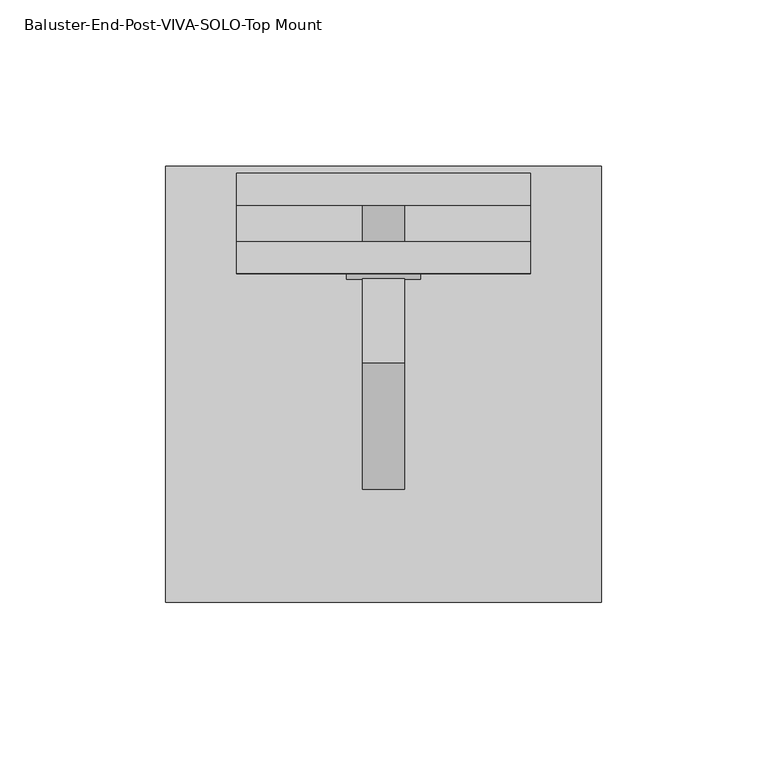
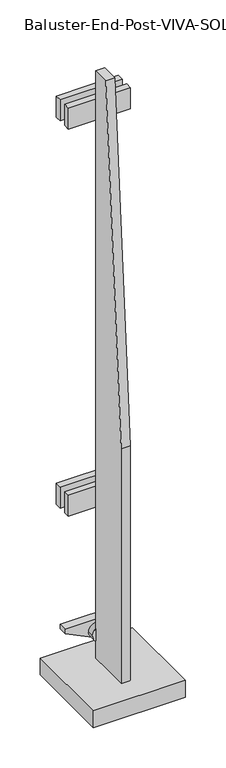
"""IFC4 building model written with IfcOpenShell, lengths in millimetres: proxy geometry, Baluster-End-Post-VIVA-SOLO-Top Mount : ANCHORED TO CONCRETE_TOP MOUNT FOLD_STRAIGHT."""

from ifc_helpers import new_model, si_unit, point, frame, frame_2d, origin, place, context, project, spatial, polyline, circle_curve, trimmed, segment, composite_curve, outline, extrude, source, transform, mapped, element, save


def baluster_end_post_viva_solo_top_mount_e11f810b(model_context):
    return source(origin(), model_context, "Body", "SweptSolid", [
        extrude(outline(composite_curve([segment(trimmed(circle_curve(frame_2d((268.5208758, -152.4)), 6.35), [point((268.5208758, -146.05))], [point((268.5208758, -158.75))], False, "CARTESIAN"), True, "CONTINUOUS"), segment(trimmed(circle_curve(frame_2d((268.5208758, -152.4)), 6.35), [point((268.5208758, -158.75))], [point((268.5208758, -146.05))], False, "CARTESIAN"), True, "CONTINUOUS")], self_intersect=False)), frame((0.0, -42.5925389, 0.0), z_axis=(0.0, 1.0, 0.0), x_axis=(0.0, 0.0, 1.0)), (0.0, 0.0, 1.0), 12.7),
        extrude(outline(composite_curve([segment(trimmed(circle_curve(frame_2d((854.776764, -152.4)), 6.35), [point((854.776764, -146.05))], [point((854.776764, -158.75))], False, "CARTESIAN"), True, "CONTINUOUS"), segment(trimmed(circle_curve(frame_2d((854.776764, -152.4)), 6.35), [point((854.776764, -158.75))], [point((854.776764, -146.05))], False, "CARTESIAN"), True, "CONTINUOUS")], self_intersect=False)), frame((0.0, -42.5925389, 0.0), z_axis=(0.0, 1.0, 0.0), x_axis=(0.0, 0.0, 1.0)), (0.0, 0.0, 1.0), 12.7),
        extrude(outline(composite_curve([segment(trimmed(circle_curve(frame_2d((60.8777263, -152.4)), 11.1125), [point((60.8777263, -141.2875))], [point((60.8777263, -163.5125))], False, "CARTESIAN"), True, "CONTINUOUS"), segment(trimmed(circle_curve(frame_2d((60.8777263, -152.4)), 11.1125), [point((60.8777263, -163.5125))], [point((60.8777263, -141.2875))], False, "CARTESIAN"), True, "CONTINUOUS")], self_intersect=False)), frame((0.0, -52.1175389, 0.0), z_axis=(0.0, 1.0, 0.0), x_axis=(0.0, 0.0, 1.0)), (0.0, 0.0, 1.0), 25.4),
        extrude(outline(polyline([(-52.1175389, 914.8205071), (-52.1175389, 0.4205071), (-115.6175389, 0.4205071), (-115.6175389, 381.4205071), (-77.5175389, 914.8205071), (-52.1175389, 914.8205071)])), frame((-158.75, 0.0, 0.0), z_axis=(1.0, 0.0, 0.0), x_axis=(0.0, 1.0, 0.0)), (0.0, 0.0, 1.0), 12.7),
        extrude(outline(polyline([(-196.85, -20.3675389), (-107.95, -20.3675389), (-107.95, -29.8925389), (-196.85, -29.8925389), (-196.85, -20.3675389)])), frame((0.0, 0.0, 838.7824344), z_axis=(0.0, 0.0, 1.0), x_axis=(1.0, 0.0, 0.0)), (0.0, 0.0, 1.0), 31.75),
        extrude(outline(polyline([(-196.85, -20.3675389), (-107.95, -20.3675389), (-107.95, -29.8925389), (-196.85, -29.8925389), (-196.85, -20.3675389)])), frame((0.0, 0.0, 252.4484609), z_axis=(0.0, 0.0, 1.0), x_axis=(1.0, 0.0, 0.0)), (0.0, 0.0, 1.0), 31.75),
        extrude(outline(polyline([(70.3302675, -107.95), (76.6802675, -107.95), (76.6802675, -196.85), (70.3302675, -196.85), (48.4156188, -152.4), (70.3302675, -107.95)])), frame((0.0, -42.5925389, 0.0), z_axis=(0.0, 1.0, 0.0), x_axis=(0.0, 0.0, 1.0)), (0.0, 0.0, 1.0), 12.7),
        extrude(outline(polyline([(-196.85, -40.984781), (-107.95, -40.984781), (-107.95, -50.509781), (-196.85, -50.509781), (-196.85, -40.984781)])), frame((0.0, 0.0, 838.7824344), z_axis=(0.0, 0.0, 1.0), x_axis=(1.0, 0.0, 0.0)), (0.0, 0.0, 1.0), 31.75),
        extrude(outline(polyline([(-196.85, -40.984781), (-107.95, -40.984781), (-107.95, -50.509781), (-196.85, -50.509781), (-196.85, -40.984781)])), frame((0.0, 0.0, 252.4484609), z_axis=(0.0, 0.0, 1.0), x_axis=(1.0, 0.0, 0.0)), (0.0, 0.0, 1.0), 31.75),
        extrude(outline(polyline([(-86.51875, -17.9862889), (-86.51875, -149.7487889), (-218.28125, -149.7487889), (-218.28125, -17.9862889), (-86.51875, -17.9862889)])), frame((0.0, 0.0, 0.4205071), z_axis=(0.0, 0.0, 1.0), x_axis=(1.0, 0.0, 0.0)), (0.0, 0.0, 1.0), 25.4),
    ])


if __name__ == "__main__":
    model = new_model("IFC4")
    model_context = context("Model", 3, world=origin())
    ifc_project = project(units=[si_unit("LENGTHUNIT", "METRE", prefix="MILLI")], contexts=[model_context])
    site = spatial("IfcSite", under=ifc_project)
    building = spatial("IfcBuilding", under=site)
    placement = place(None, origin())
    baluster_end_post_viva_solo_top_mount_shape = baluster_end_post_viva_solo_top_mount_e11f810b(model_context)
    element("IfcBuildingElementProxy", 1, Name="Baluster-End-Post-VIVA-SOLO-Top Mount : ANCHORED TO CONCRETE_TOP MOUNT FOLD_STRAIGHT", ObjectType="Baluster-End-Post-VIVA-SOLO-Top Mount : ANCHORED TO CONCRETE_TOP MOUNT FOLD_STRAIGHT", at=placement, inside=building, context=model_context, shape_type="MappedRepresentation", body=[
        mapped(baluster_end_post_viva_solo_top_mount_shape, transform((0.0, 0.0, 0.0), x_axis=(1.0, 0.0, 0.0), y_axis=(0.0, 1.0, 0.0), z_axis=(0.0, 0.0, 1.0))),
    ])
    save(model, "model.ifc")
